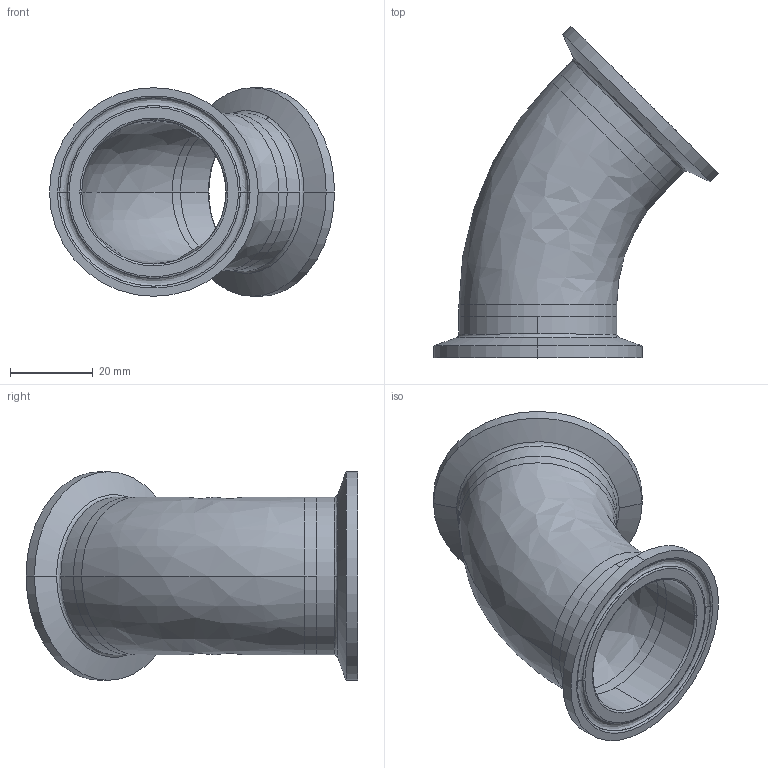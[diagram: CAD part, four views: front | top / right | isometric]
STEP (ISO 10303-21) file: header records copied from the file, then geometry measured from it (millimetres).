
FILE_DESCRIPTION (( 'STEP AP214' ), '1' );
FILE_NAME ('TEG2K6L1.5-...STEP', '2016-05-22T07:33:57', ( 'eran' ), ( '' ), 'SwSTEP 2.0', 'SolidWorks 2016', '' );
FILE_SCHEMA (( 'AUTOMOTIVE_DESIGN' ));
Length unit declared in the file: millimetre
Products named in the file (1): TEG2K6L1.5-..
Bounding box: 68.82 x 80.13 x 50.39 mm (x, y, z)
Volume: 19664 mm3; surface area: 20573.1 mm2
Topology: 3 solids, 3 shells, 64 faces, 156 edges, 100 vertices
Faces by surface type: bspline 24, cylinder 20, cone 12, plane 8
Entity records: 3286 total; most frequent: CARTESIAN_POINT 1729, DIRECTION 338, ORIENTED_EDGE 312, EDGE_CURVE 156, AXIS2_PLACEMENT_3D 153, CIRCLE 112, VERTEX_POINT 100, EDGE_LOOP 72
